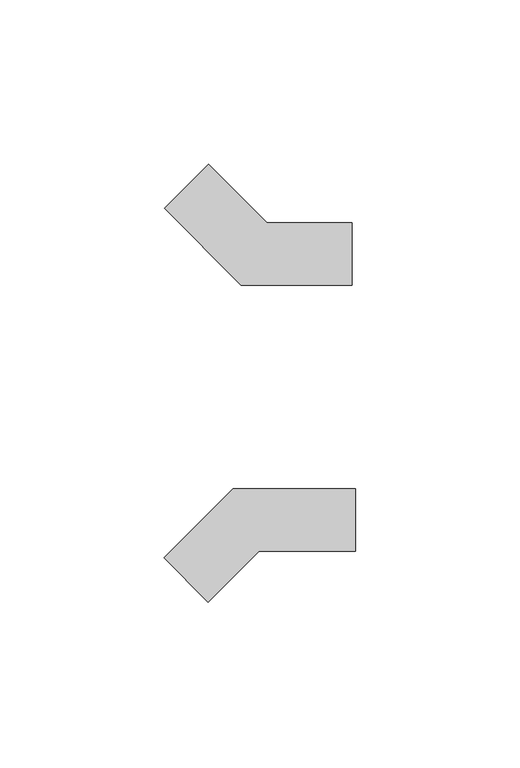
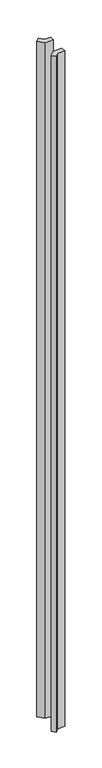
"""IFC4 building model written with IfcOpenShell, lengths in millimetres: proxy geometry, Connection-Corner-Teknion-Altos-Three_Way_FKCH133 : 135º Connection."""

from ifc_helpers import new_model, si_unit, origin, origin_with_axes, place, context, project, spatial, polyline, outline, extrude, source, transform, mapped, element, save


def specialty_equipment_fa887806(model_context):
    return source(origin(), model_context, "Body", "SweptSolid", [
        extrude(outline(polyline([(49.0233446, 30.9048441), (15.2246012, 30.9048441), (-8.1996232, 54.3290685), (5.270761, 67.7994527), (23.0702133, 50.0000003), (49.0233446, 50.0000003), (49.0233446, 30.9048441)])), origin_with_axes(), (0.0, 0.0, 1.0), 3048.0),
        extrude(outline(polyline([(50.0677266, -50.0497243), (20.6647552, -50.0497243), (5.177912, -65.5365675), (-8.2924721, -52.0661833), (12.7739868, -30.9997243), (50.0677266, -30.9997243), (50.0677266, -50.0497243)])), origin_with_axes(), (0.0, 0.0, 1.0), 3048.0),
    ])


if __name__ == "__main__":
    model = new_model("IFC4")
    model_context = context("Model", 3, world=origin())
    ifc_project = project(units=[si_unit("LENGTHUNIT", "METRE", prefix="MILLI")], contexts=[model_context])
    site = spatial("IfcSite", under=ifc_project)
    building = spatial("IfcBuilding", under=site)
    placement = place(None, origin())
    specialty_equipment_shape = specialty_equipment_fa887806(model_context)
    element("IfcBuildingElementProxy", 1, Name="Connection-Corner-Teknion-Altos-Three_Way_FKCH133 : 135º Connection", ObjectType="Connection-Corner-Teknion-Altos-Three_Way_FKCH133 : 135º Connection", at=placement, inside=building, context=model_context, shape_type="MappedRepresentation", body=[
        mapped(specialty_equipment_shape, transform((0.0, 0.0, 0.0), x_axis=(1.0, 0.0, 0.0), y_axis=(0.0, 1.0, 0.0), z_axis=(0.0, 0.0, 1.0))),
    ])
    save(model, "model.ifc")
